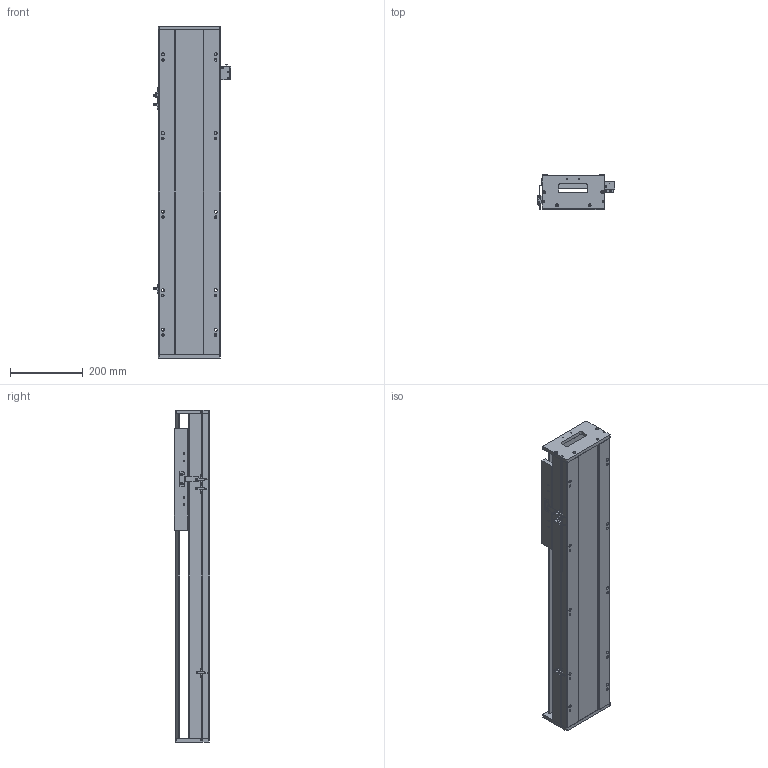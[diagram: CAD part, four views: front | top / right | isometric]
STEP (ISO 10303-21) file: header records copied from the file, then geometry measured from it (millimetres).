
FILE_DESCRIPTION (( 'STEP AP203' ), '1' );
FILE_NAME ('SKR17S-C2-S532（简）.STEP', '2022-09-29T07:35:42', ( '' ), ( '' ), 'SwSTEP 2.0', 'SolidWorks 2018', '' );
FILE_SCHEMA (( 'CONFIG_CONTROL_DESIGN' ));
Length unit declared in the file: millimetre
Products named in the file (8): 感应片（SKR12S-14S-17S）; SKR17耜啣; SIKO棠掑; EE-SX672; SKR17菁釱-C2-S532(潠); SKR17S-C2-S532（简）; SKR17滑台-280L（简）; 棠掑假蚾輸
Assembly tree (10 placements, depth 2):
  SKR17S-C2-S532（简）
    SKR17菁釱-C2-S532(潠)
    SIKO棠掑
    EE-SX672  x3
    SKR17耜啣  x2
    棠掑假蚾輸
    SKR17滑台-280L（简）
    感应片（SKR12S-14S-17S）
Bounding box: 212.7 x 97 x 912 mm (x, y, z)
Volume: 7750079.4 mm3; surface area: 1015048.7 mm2
Topology: 11 solids, 11 shells, 1048 faces, 2894 edges, 1858 vertices
Faces by surface type: cylinder 481, plane 453, cone 114
Entity records: 30755 total; most frequent: CARTESIAN_POINT 7407, ORIENTED_EDGE 4808, DIRECTION 4589, EDGE_CURVE 2404, AXIS2_PLACEMENT_3D 1624, VERTEX_POINT 1562, LINE 1341, VECTOR 1341
